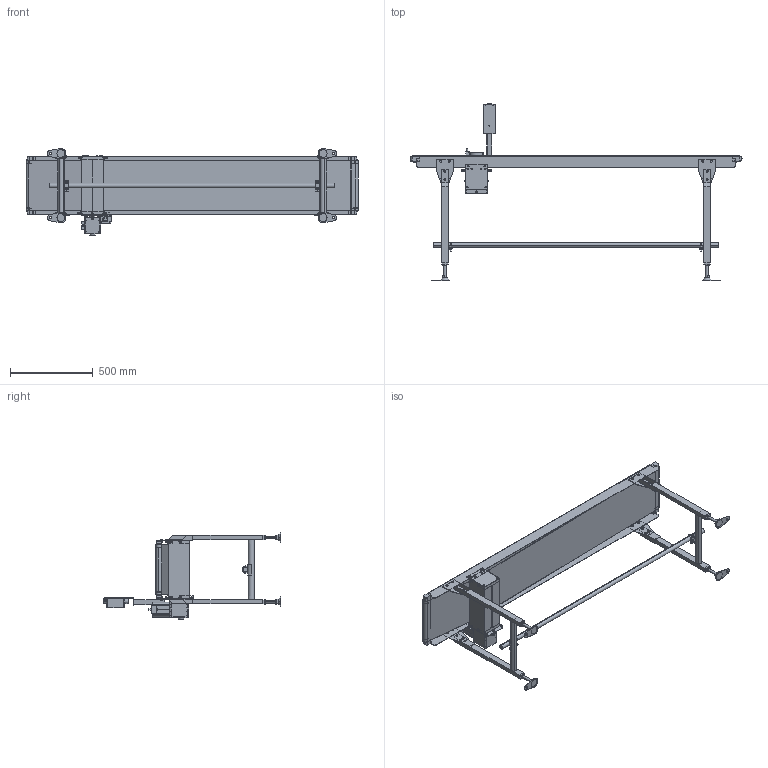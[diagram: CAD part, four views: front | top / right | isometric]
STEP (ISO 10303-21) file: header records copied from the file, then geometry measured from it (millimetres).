
FILE_DESCRIPTION( (''), '2;1');
FILE_NAME ('FSD-HS-309-300-200-R-K-60.stp','2025-01-30T17:02:06',(''),(''),'spGate 20.6.2 (****-****-****-****)','','');
FILE_SCHEMA (('AUTOMOTIVE_DESIGN'));
Length unit declared in the file: millimetre
Products named in the file (52): NewModel; TEMP_X_T-prt0; TEMP_X_T-prt1; TEMP_X_T-prt2; TEMP_X_T-prt3; TEMP_X_T-prt4; TEMP_X_T-prt5; TEMP_X_T-prt6; TEMP_X_T-prt7; TEMP_X_T-prt8; TEMP_X_T-prt9; TEMP_X_T-prt10; TEMP_X_T-prt11; TEMP_X_T-prt12; TEMP_X_T-prt13; TEMP_X_T-prt14; TEMP_X_T-prt15; TEMP_X_T-prt16; TEMP_X_T-prt17; TEMP_X_T-prt18; TEMP_X_T-prt19; TEMP_X_T-prt20; TEMP_X_T-prt21; TEMP_X_T-prt22; TEMP_X_T-prt23; TEMP_X_T-prt24; TEMP_X_T-prt25; TEMP_X_T-prt26; TEMP_X_T-prt27; TEMP_X_T-prt28; TEMP_X_T-prt29; TEMP_X_T-prt30; TEMP_X_T-prt31; TEMP_X_T-prt32; TEMP_X_T-prt33; TEMP_X_T-prt34; TEMP_X_T-prt35; TEMP_X_T-prt36; TEMP_X_T-prt37; TEMP_X_T-prt38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
Assembly tree (51 placements, depth 2):
  NewModel
    TEMP_X_T-prt0
    TEMP_X_T-prt1
    TEMP_X_T-prt2
    TEMP_X_T-prt3
    TEMP_X_T-prt4
    TEMP_X_T-prt5
    TEMP_X_T-prt6
    TEMP_X_T-prt7
    TEMP_X_T-prt8
    TEMP_X_T-prt9
    TEMP_X_T-prt10
    TEMP_X_T-prt11
    TEMP_X_T-prt12
    TEMP_X_T-prt13
    TEMP_X_T-prt14
    TEMP_X_T-prt15
    TEMP_X_T-prt16
    TEMP_X_T-prt17
    TEMP_X_T-prt18
    TEMP_X_T-prt19
    TEMP_X_T-prt20
    TEMP_X_T-prt21
    TEMP_X_T-prt22
    TEMP_X_T-prt23
    TEMP_X_T-prt24
    TEMP_X_T-prt25
    TEMP_X_T-prt26
    TEMP_X_T-prt27
    TEMP_X_T-prt28
    TEMP_X_T-prt29
    TEMP_X_T-prt30
    TEMP_X_T-prt31
    TEMP_X_T-prt32
    TEMP_X_T-prt33
    TEMP_X_T-prt34
    TEMP_X_T-prt35
    TEMP_X_T-prt36
    TEMP_X_T-prt37
    TEMP_X_T-prt38
    TEMP_X_T-prt39
    TEMP_X_T-prt40
    TEMP_X_T-prt41
    TEMP_X_T-prt42
    TEMP_X_T-prt43
    TEMP_X_T-prt44
    TEMP_X_T-prt45
    TEMP_X_T-prt46
    TEMP_X_T-prt47
    TEMP_X_T-prt48
    TEMP_X_T-prt49
    TEMP_X_T-prt50
Bounding box: 2001.38 x 1069.5 x 525 mm (x, y, z)
Volume: 17210334.2 mm3; surface area: 6297729.3 mm2
Topology: 51 solids, 51 shells, 2108 faces, 5182 edges, 3400 vertices
Faces by surface type: plane 1402, cylinder 651, bspline 55
Entity records: 106502 total; most frequent: CARTESIAN_POINT 12629, DIRECTION 10401, ORIENTED_EDGE 10348, COLOUR_RGB 7333, PRESENTATION_STYLE_ASSIGNMENT 7333, STYLED_ITEM 7333, EDGE_CURVE 5174, DRAUGHTING_PRE_DEFINED_CURVE_FONT 5174
